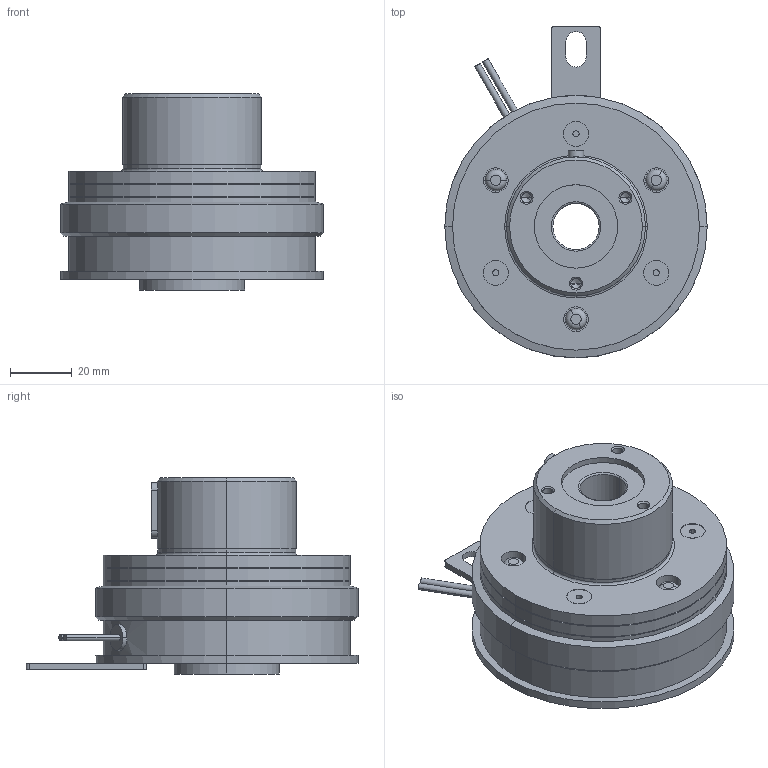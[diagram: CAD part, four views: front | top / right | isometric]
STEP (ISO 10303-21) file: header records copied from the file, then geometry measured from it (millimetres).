
FILE_DESCRIPTION (( 'STEP AP214' ), '1' );
FILE_NAME ('CS-08-35G R15DIN A15DIN.STEP', '2018-02-22T05:08:53', ( 'MIKI' ), ( '' ), 'SwSTEP 2.0', 'SolidWorks 2012', '' );
FILE_SCHEMA (( 'AUTOMOTIVE_DESIGN' ));
Length unit declared in the file: millimetre
Products named in the file (1): CS-08-35G R15DIN A15DIN
Bounding box: 85 x 107.5 x 63.5 mm (x, y, z)
Volume: 207709.2 mm3; surface area: 41914.5 mm2
Topology: 1 solids, 6 shells, 230 faces, 489 edges, 301 vertices
Faces by surface type: cylinder 116, plane 62, cone 36, torus 16
Entity records: 8883 total; most frequent: DIRECTION 1207, CARTESIAN_POINT 1176, ORIENTED_EDGE 950, AXIS2_PLACEMENT_3D 510, EDGE_CURVE 475, VERTEX_POINT 301, EDGE_LOOP 282, CIRCLE 279
